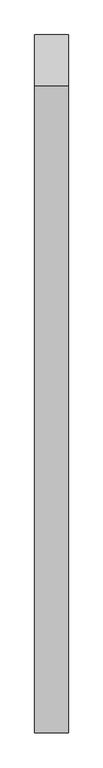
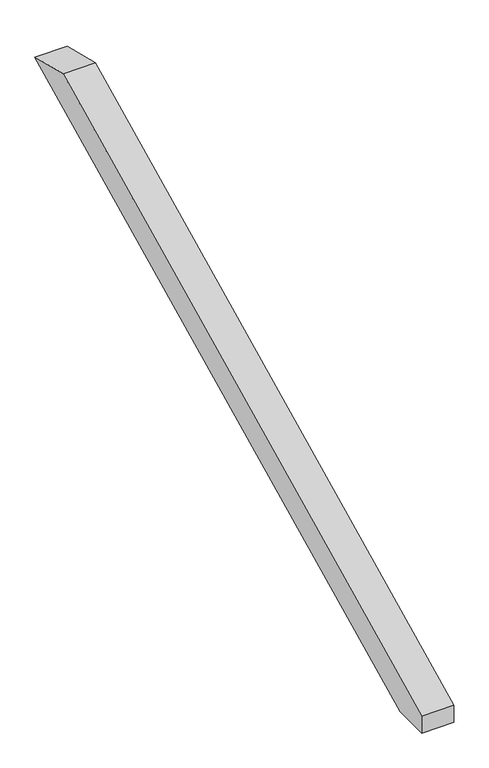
"""IFC4 building model written with IfcOpenShell, lengths in millimetres: proxy geometry, Modelos genéricos 40 : Modelos genéricos 16."""

from ifc_helpers import new_model, si_unit, frame, origin, place, context, project, spatial, polyline, outline, extrude, source, transform, mapped, element, save


def generic_models_df8050df(model_context):
    return source(origin(), model_context, "Body", "SweptSolid", [
        extrude(outline(polyline([(3173.8548825, 3756.8218964), (3264.4256133, 3734.240077), (2087.0589775, 3160.0), (2018.6238165, 3160.0), (2018.6238165, 3193.3780582), (3173.8548825, 3756.8218964)])), frame((-9026.5527533, 0.0, 0.0), z_axis=(1.0, 0.0, 0.0), x_axis=(0.0, 1.0, 0.0)), (0.0, 0.0, 1.0), 60.0),
    ])


if __name__ == "__main__":
    model = new_model("IFC4")
    model_context = context("Model", 3, world=origin())
    ifc_project = project(units=[si_unit("LENGTHUNIT", "METRE", prefix="MILLI")], contexts=[model_context])
    site = spatial("IfcSite", under=ifc_project)
    building = spatial("IfcBuilding", under=site)
    placement = place(None, origin())
    generic_models_shape = generic_models_df8050df(model_context)
    element("IfcBuildingElementProxy", 1, Name="Modelos genéricos 40 : Modelos genéricos 16", ObjectType="Modelos genéricos 40 : Modelos genéricos 16", at=placement, inside=building, context=model_context, shape_type="MappedRepresentation", body=[
        mapped(generic_models_shape, transform((0.0, 0.0, 0.0), x_axis=(1.0, 0.0, 0.0), y_axis=(0.0, 1.0, 0.0), z_axis=(0.0, 0.0, 1.0))),
    ])
    save(model, "model.ifc")
